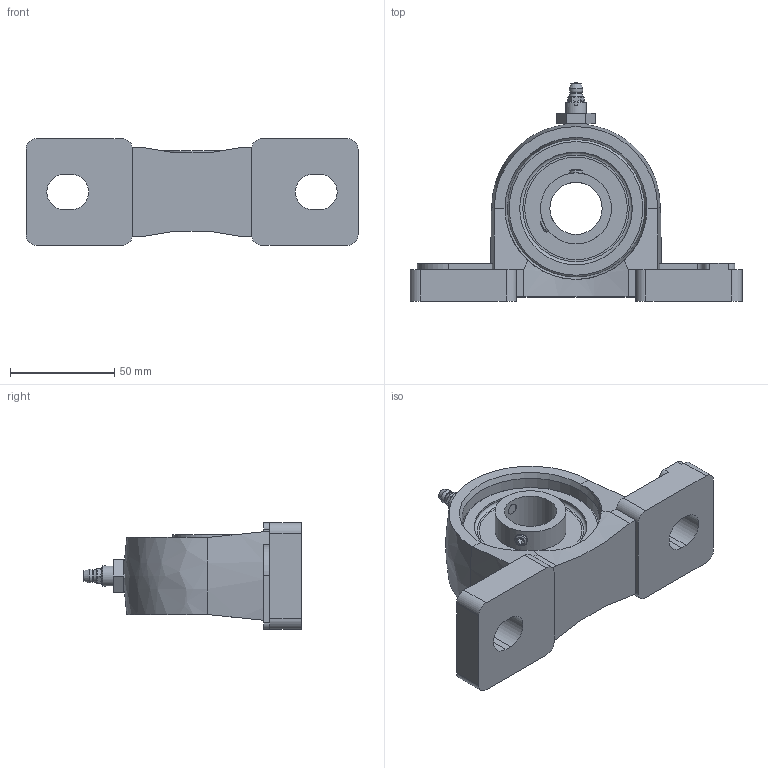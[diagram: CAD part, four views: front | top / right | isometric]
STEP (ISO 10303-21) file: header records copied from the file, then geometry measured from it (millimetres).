
FILE_DESCRIPTION((''),'2;1');
FILE_NAME('\\Ts-tgl068\J-Cad-D-BASE\00.3DCADデータ作成フォルダ\01.ピロー形\UCEP200\UCEP205.stp','2014-04-18T09:40:27',('btec_1106_2'),(''),'Autodesk Inventor 2012','Autodesk Inventor 2012','');
FILE_SCHEMA(('AUTOMOTIVE_DESIGN { 1 0 10303 214 1 1 1 1 }'));
Length unit declared in the file: millimetre
Products named in the file (7): UCEP200; EP205; AU110-1; EC205; GU1; シリーズUC [番手=205 ul]; M10X1
Assembly tree (6 placements, depth 2):
  UCEP200
    EP205
    AU110-1
    EC205
    GU1
    シリーズUC [番手=205 ul]
    M10X1
Bounding box: 159 x 104.59 x 51 mm (x, y, z)
Volume: 224142 mm3; surface area: 59775.6 mm2
Topology: 6 solids, 6 shells, 179 faces, 443 edges, 284 vertices
Faces by surface type: plane 95, cylinder 50, cone 21, torus 8, sphere 4, bspline 1
Full cylindrical faces by diameter (mm): 2 x1, 5 x1, 5.359 x1, 6 x2, 6.35 x1, 8.376 x2, 10 x1, 25 x1, 34 x2, 54 x2, 66 x2
Entity records: 5539 total; most frequent: CARTESIAN_POINT 1226, DIRECTION 874, ORIENTED_EDGE 784, EDGE_CURVE 392, AXIS2_PLACEMENT_3D 337, VERTEX_POINT 270, EDGE_LOOP 240, VECTOR 200
